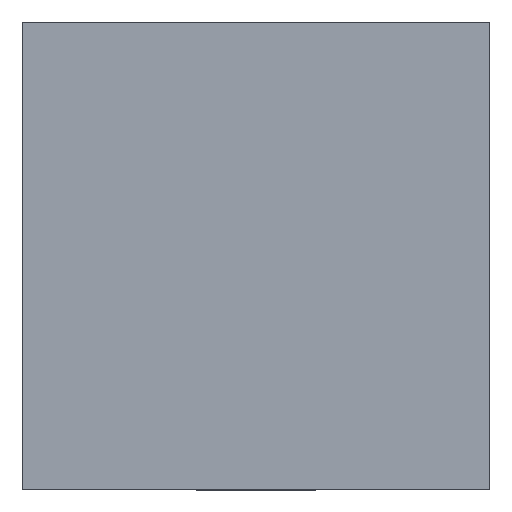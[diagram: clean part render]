
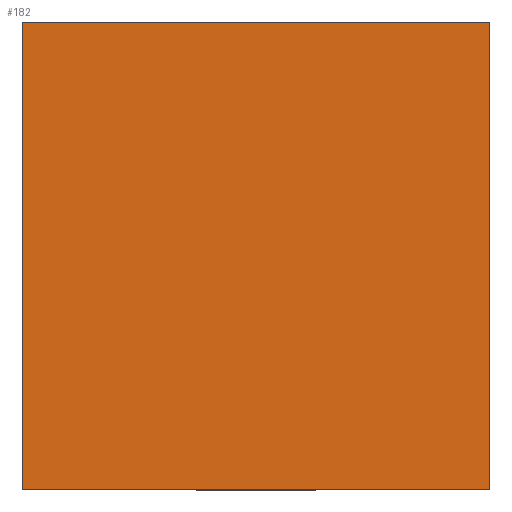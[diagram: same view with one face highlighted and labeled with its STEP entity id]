
A CAD part, top view. The second image highlights one B-rep face of the part: STEP entity #182.
In plain terms, the highlighted planar face has unit normal (0, 0, 1).
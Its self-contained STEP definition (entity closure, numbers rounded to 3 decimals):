
#182=ADVANCED_FACE('',(#329),#331,.T.);
#329=FACE_BOUND('',#330,.T.);
#330=EDGE_LOOP('',(#626,#627,#628,#629));
#331=PLANE('',#332);
#332=AXIS2_PLACEMENT_3D('',#333,#334,#335);
#333=CARTESIAN_POINT('',(0.,0.,0.9));
#334=DIRECTION('',(0.,0.,1.));
#335=DIRECTION('',(0.,-1.,0.));
#626=ORIENTED_EDGE('',*,*,#820,.T.);
#627=ORIENTED_EDGE('',*,*,#826,.T.);
#628=ORIENTED_EDGE('',*,*,#809,.T.);
#629=ORIENTED_EDGE('',*,*,#817,.T.);
#809=EDGE_CURVE('',#966,#964,#967,.T.);
#817=EDGE_CURVE('',#964,#979,#981,.T.);
#820=EDGE_CURVE('',#979,#984,#986,.T.);
#826=EDGE_CURVE('',#984,#966,#996,.T.);
#964=VERTEX_POINT('',#1105);
#966=VERTEX_POINT('',#1109);
#967=LINE('',#1110,#1111);
#979=VERTEX_POINT('',#1136);
#981=LINE('',#1140,#1141);
#984=VERTEX_POINT('',#1147);
#986=LINE('',#1151,#1152);
#996=LINE('',#1173,#1174);
#1105=CARTESIAN_POINT('',(-1.,-1.,0.9));
#1109=CARTESIAN_POINT('',(-1.,1.,0.9));
#1110=CARTESIAN_POINT('',(-1.,1.,0.9));
#1111=VECTOR('',#1112,1.);
#1112=DIRECTION('',(0.,-1.,0.));
#1136=CARTESIAN_POINT('',(1.,-1.,0.9));
#1140=CARTESIAN_POINT('',(-1.,-1.,0.9));
#1141=VECTOR('',#1142,1.);
#1142=DIRECTION('',(1.,0.,0.));
#1147=CARTESIAN_POINT('',(1.,1.,0.9));
#1151=CARTESIAN_POINT('',(1.,-1.,0.9));
#1152=VECTOR('',#1153,1.);
#1153=DIRECTION('',(0.,1.,0.));
#1173=CARTESIAN_POINT('',(1.,1.,0.9));
#1174=VECTOR('',#1175,1.);
#1175=DIRECTION('',(-1.,0.,0.));
